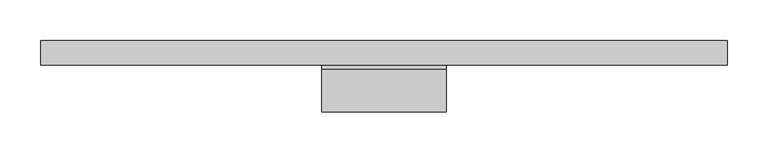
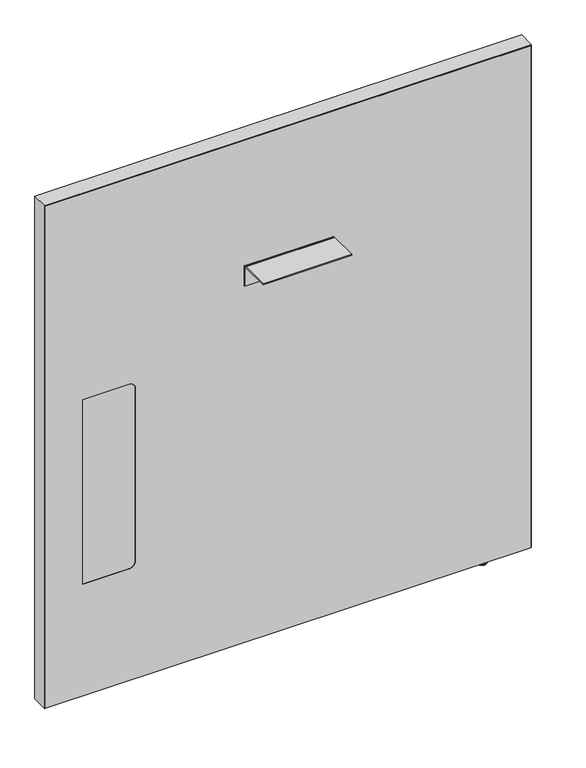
"""IFC4 building model written with IfcOpenShell, lengths in millimetres: furniture geometry, Steelcase - Answer Solution - Boundary Screen - Straight - Single Sided : 36H x 33W."""

from ifc_helpers import new_model, si_unit, point, frame, frame_2d, origin, place, context, project, spatial, polyline, circle_curve, ellipse_curve, trimmed, segment, composite_curve, outline, extrude, source, transform, mapped, element, save
from ifc_brep_helpers import plane_surface, cylinder_surface, revolved_surface, advanced_brep


def furniture_6d971016(model_context):
    return source(origin(), model_context, "Body", "SolidModel", [
        extrude(outline(composite_curve([segment(polyline([(-86.8398151, 696.4680019), (-86.8398151, 698.5), (-34.9450855, 698.5)]), True, "CONTINUOUS"), segment(trimmed(circle_curve(frame_2d((-34.9450855, 693.2447477)), 5.2552523), [point((-34.9450855, 698.5))], [point((-29.6898332, 693.2447477))], False, "CARTESIAN"), True, "CONTINUOUS"), segment(polyline([(-29.6898332, 693.2447477), (-29.6898332, 660.4), (-31.7218162, 660.4), (-31.7218162, 693.0058743)]), True, "CONTINUOUS"), segment(trimmed(circle_curve(frame_2d((-35.1839438, 693.0058743)), 3.4621276), [point((-31.7218162, 693.0058743))], [point((-35.1839438, 696.4680019))], True, "CARTESIAN"), True, "CONTINUOUS"), segment(polyline([(-35.1839438, 696.4680019), (-86.8398151, 696.4680019)]), True, "CONTINUOUS")], self_intersect=False)), frame((-303.5808593, 0.0, 0.0), z_axis=(1.0, 0.0, 0.0), x_axis=(0.0, 1.0, 0.0)), (0.0, 0.0, 1.0), 152.4000969),
        advanced_brep(
        [(114.5286488, -23.7588726, 9.9059849), (114.5286488, -5.9309607, 9.9059849), (114.5286488, -14.8449166, 9.9059849), (114.5286488, -23.7588726, 2.9673238), (114.5286488, -5.9309607, 2.9673238), (114.5286488, -22.7915354, 2.9673238), (114.5286488, -6.8982978, 2.9673238), (114.5286488, -22.7915354, 1.6569081), (114.5286488, -6.8982978, 1.6569081), (114.5286488, -21.1346274, 0.0), (114.5286488, -8.5552059, 0.0), (114.5286488, -14.8449166, 0.0)],
        [
            (0, 1, circle_curve(frame((114.5286488, -14.8449166, 9.9059849), z_axis=(0.0, 0.0, 1.0), x_axis=(0.0, 1.0, 0.0)), 8.913956)),
            (1, 2),
            (2, 0),
            (1, 0, circle_curve(frame((114.5286488, -14.8449166, 9.9059849), z_axis=(0.0, 0.0, 1.0), x_axis=(0.0, 1.0, 0.0)), 8.913956)),
            (3, 4, circle_curve(frame((114.5286488, -14.8449166, 2.9673238), z_axis=(0.0, 0.0, 1.0), x_axis=(0.0, 1.0, 0.0)), 8.913956)),
            (4, 1),
            (0, 3),
            (4, 3, circle_curve(frame((114.5286488, -14.8449166, 2.9673238), z_axis=(0.0, 0.0, 1.0), x_axis=(0.0, 1.0, 0.0)), 8.913956)),
            (5, 6, circle_curve(frame((114.5286488, -14.8449166, 2.9673238), z_axis=(0.0, 0.0, 1.0), x_axis=(0.0, 1.0, 0.0)), 7.9466188)),
            (6, 4),
            (3, 5),
            (6, 5, circle_curve(frame((114.5286488, -14.8449166, 2.9673238), z_axis=(0.0, 0.0, 1.0), x_axis=(0.0, 1.0, 0.0)), 7.9466188)),
            (7, 8, circle_curve(frame((114.5286488, -14.8449166, 1.6569081), z_axis=(0.0, 0.0, 1.0), x_axis=(0.0, 1.0, 0.0)), 7.9466188)),
            (8, 6),
            (5, 7),
            (8, 7, circle_curve(frame((114.5286488, -14.8449166, 1.6569081), z_axis=(0.0, 0.0, 1.0), x_axis=(0.0, 1.0, 0.0)), 7.9466188)),
            (9, 10, circle_curve(frame((114.5286488, -14.8449166, 0.0), z_axis=(0.0, 0.0, 1.0), x_axis=(0.0, 1.0, 0.0)), 6.2897107)),
            (10, 8, circle_curve(frame((114.5286488, -8.5552059, 1.6569081), z_axis=(1.0, 0.0, 0.0), x_axis=(0.0, 1.0, 0.0)), 1.6569081)),
            (7, 9, circle_curve(frame((114.5286488, -21.1346274, 1.6569081), z_axis=(1.0, 0.0, 0.0), x_axis=(0.0, -1.0, 0.0)), 1.6569081)),
            (10, 9, circle_curve(frame((114.5286488, -14.8449166, 0.0), z_axis=(0.0, 0.0, 1.0), x_axis=(0.0, 1.0, 0.0)), 6.2897107)),
            (11, 10),
            (9, 11),
        ],
        [
            plane_surface(frame((114.5286488, -14.8449166, 9.9059849), z_axis=(0.0, 0.0, 1.0), x_axis=(0.0, 1.0, 0.0))),
            cylinder_surface(frame((114.5286488, -14.8449166, 9.9059849), z_axis=(0.0, 0.0, -1.0), x_axis=(0.0, 1.0, 0.0)), 8.913956),
            plane_surface(frame((114.5286488, -14.8449166, 2.9673238), z_axis=(0.0, 0.0, -1.0), x_axis=(0.0, 1.0, 0.0))),
            cylinder_surface(frame((114.5286488, -14.8449166, 9.9059849), z_axis=(0.0, 0.0, -1.0), x_axis=(0.0, 1.0, 0.0)), 7.9466188),
            revolved_surface(trimmed(ellipse_curve(frame((114.5286488, -8.5552059, 1.6569081), z_axis=(-1.0, 0.0, 0.0), x_axis=(0.0, 1.0, 0.0)), 1.6569081, 1.6569081), [point((114.5286488, -6.8982978, 1.6569081))], [point((114.5286488, -8.5552059, 0.0))], True, "CARTESIAN"), (114.5286488, -14.8449166, 9.9059849), (0.0, 0.0, -1.0)),
            plane_surface(frame((114.5286488, -14.8449166, 0.0), z_axis=(0.0, 0.0, -1.0), x_axis=(0.0, 1.0, 0.0))),
        ],
        [
            (0, [[1, 2, 3]]),
            (0, [[4, -3, -2]]),
            (1, [[5, 6, -1, 7]]),
            (1, [[8, -7, -4, -6]]),
            (2, [[9, 10, -5, 11]]),
            (2, [[12, -11, -8, -10]]),
            (3, [[13, 14, -9, 15]]),
            (3, [[16, -15, -12, -14]]),
            (4, [[17, 18, -13, 19]]),
            (4, [[20, -19, -16, -18]]),
            (5, [[21, -17, 22]]),
            (5, [[-22, -20, -21]]),
        ],
    ),
        advanced_brep(
        [(190.6780168, 0.0, 924.342118), (190.6780168, 0.0, 9.9059849), (-645.4902221, 0.0, 9.9059849), (-645.4902221, 0.0, 924.342118), (190.6780168, -29.6898332, 924.342118), (-645.4902221, -29.6898332, 924.342118), (-645.4902221, -29.6898332, 9.9059849), (190.6780168, -29.6898332, 9.9059849), (-501.1463873, -29.6898332, 549.6162029), (-490.9863873, -29.6898332, 539.4562029), (-490.9863873, -29.6898332, 223.9362137), (-501.1463873, -29.6898332, 213.7762137), (-580.800285, -29.6898332, 213.7762137), (-580.800285, -29.6898332, 549.6162029), (-580.800285, -29.0550397, 549.6162029), (-501.1463873, -29.0550397, 549.6162029), (-580.800285, -29.0550397, 213.7762137), (-501.1463873, -29.0550397, 213.7762137), (-490.9863873, -29.0550397, 223.9362137), (-490.9863873, -29.0550397, 539.4562029)],
        [
            (0, 1),
            (1, 2),
            (2, 3),
            (3, 0),
            (4, 5),
            (5, 6),
            (6, 7),
            (7, 4),
            (8, 9, circle_curve(frame((-501.1463873, -29.6898332, 539.4562029), z_axis=(0.0, 1.0, 0.0), x_axis=(0.0, 0.0, 1.0)), 10.16)),
            (9, 10),
            (10, 11, circle_curve(frame((-501.1463873, -29.6898332, 223.9362137), z_axis=(0.0, 1.0, 0.0), x_axis=(0.0, 0.0, 1.0)), 10.16)),
            (11, 12),
            (12, 13),
            (13, 8),
            (0, 4),
            (7, 1),
            (6, 2),
            (5, 3),
            (13, 14),
            (14, 15),
            (15, 8),
            (12, 16),
            (16, 14),
            (11, 17),
            (17, 16),
            (10, 18),
            (18, 17, circle_curve(frame((-501.1463873, -29.0550397, 223.9362137), z_axis=(0.0, 1.0, 0.0), x_axis=(0.0, 0.0, 1.0)), 10.16)),
            (9, 19),
            (19, 18),
            (15, 19, circle_curve(frame((-501.1463873, -29.0550397, 539.4562029), z_axis=(0.0, 1.0, 0.0), x_axis=(0.0, 0.0, 1.0)), 10.16)),
        ],
        [
            plane_surface(frame((190.6780168, 0.0, 924.342118), z_axis=(0.0, 1.0, 0.0), x_axis=(0.0, 0.0, -1.0))),
            plane_surface(frame((190.6780168, -29.6898332, 924.342118), z_axis=(0.0, -1.0, 0.0), x_axis=(0.0, 0.0, 1.0))),
            plane_surface(frame((190.6780168, 0.0, 924.342118), z_axis=(1.0, 0.0, 0.0), x_axis=(0.0, -1.0, 0.0))),
            plane_surface(frame((190.6780168, 0.0, 9.9059849), z_axis=(0.0, 0.0, -1.0), x_axis=(0.0, -1.0, 0.0))),
            plane_surface(frame((-645.4902221, 0.0, 9.9059849), z_axis=(-1.0, 0.0, 0.0), x_axis=(0.0, -1.0, 0.0))),
            plane_surface(frame((-645.4902221, 0.0, 924.342118), z_axis=(0.0, 0.0, 1.0), x_axis=(0.0, -1.0, 0.0))),
            plane_surface(frame((-501.1463873, 0.0, 549.6162029), z_axis=(0.0, 0.0, -1.0), x_axis=(0.0, -1.0, 0.0))),
            plane_surface(frame((-580.800285, 0.0, 549.6162029), z_axis=(1.0, 0.0, 0.0), x_axis=(0.0, -1.0, 0.0))),
            plane_surface(frame((-580.800285, 0.0, 213.7762137), z_axis=(0.0, 0.0, 1.0), x_axis=(0.0, -1.0, 0.0))),
            revolved_surface(polyline([(-501.1463873, -29.6898332, 234.0962137), (-501.1463873, -29.0550397, 234.0962137)]), (-501.1463873, -29.6898332, 223.9362137), (0.0, -1.0, 0.0)),
            plane_surface(frame((-490.9863873, 0.0, 223.9362137), z_axis=(-1.0, 0.0, 0.0), x_axis=(0.0, -1.0, 0.0))),
            revolved_surface(polyline([(-501.1463873, -29.6898332, 549.6162029), (-501.1463873, -29.0550397, 549.6162029)]), (-501.1463873, -29.6898332, 539.4562029), (0.0, -1.0, 0.0)),
            plane_surface(frame((-490.9863873, -29.0550397, 629.172953), z_axis=(0.0, -1.0, 0.0), x_axis=(0.0, 0.0, 1.0))),
        ],
        [
            (0, [[1, 2, 3, 4]]),
            (1, [[5, 6, 7, 8], [9, 10, 11, 12, 13, 14]]),
            (2, [[-1, 15, -8, 16]]),
            (3, [[-2, -16, -7, 17]]),
            (4, [[-3, -17, -6, 18]]),
            (5, [[-4, -18, -5, -15]]),
            (6, [[-14, 19, 20, 21]]),
            (7, [[-13, 22, 23, -19]]),
            (8, [[-12, 24, 25, -22]]),
            (9, [[-11, 26, 27, -24]]),
            (10, [[-10, 28, 29, -26]]),
            (11, [[-9, -21, 30, -28]]),
            (12, [[-20, -23, -25, -27, -29, -30]]),
        ],
    ),
        extrude(outline(composite_curve([segment(polyline([(549.6162029, -501.1463873), (549.6162029, -580.800285), (213.7762137, -580.800285), (213.7762137, -501.1463873)]), True, "CONTINUOUS"), segment(trimmed(circle_curve(frame_2d((223.9362137, -501.1463873)), 10.16), [point((213.7762137, -501.1463873))], [point((223.9362137, -490.9863873))], False, "CARTESIAN"), True, "CONTINUOUS"), segment(polyline([(223.9362137, -490.9863873), (539.4562029, -490.9863873)]), True, "CONTINUOUS"), segment(trimmed(circle_curve(frame_2d((539.4562029, -501.1463873)), 10.16), [point((539.4562029, -490.9863873))], [point((549.6162029, -501.1463873))], False, "CARTESIAN"), True, "CONTINUOUS")], self_intersect=False)), frame((0.0, -29.6898332, 0.0), z_axis=(0.0, 1.0, 0.0), x_axis=(0.0, 0.0, 1.0)), (0.0, 0.0, 1.0), 0.6347935),
        extrude(outline(polyline([(925.322, 191.7191891), (925.322, -646.4808109), (9.9059849, -646.4808109), (9.9059849, -645.4902221), (924.342118, -645.4902221), (924.342118, 190.6780168), (9.9059849, 190.6780168), (9.9059849, 191.7191891), (925.322, 191.7191891)])), frame((0.0, -29.6898332, 0.0), z_axis=(0.0, 1.0, 0.0), x_axis=(0.0, 0.0, 1.0)), (0.0, 0.0, 1.0), 29.6898332),
    ])


if __name__ == "__main__":
    model = new_model("IFC4")
    model_context = context("Model", 3, world=origin())
    ifc_project = project(units=[si_unit("LENGTHUNIT", "METRE", prefix="MILLI")], contexts=[model_context])
    site = spatial("IfcSite", under=ifc_project)
    building = spatial("IfcBuilding", under=site)
    placement = place(None, origin())
    furniture_shape = furniture_6d971016(model_context)
    element("IfcFurniture", 1, ObjectType="Steelcase - Answer Solution - Boundary Screen - Straight - Single Sided : 36H x 33W", at=placement, inside=building, context=model_context, shape_type="MappedRepresentation", body=[
        mapped(furniture_shape, transform((0.0, 0.0, 0.0), x_axis=(1.0, 0.0, 0.0), y_axis=(0.0, 1.0, 0.0), z_axis=(0.0, 0.0, 1.0))),
    ])
    save(model, "model.ifc")
